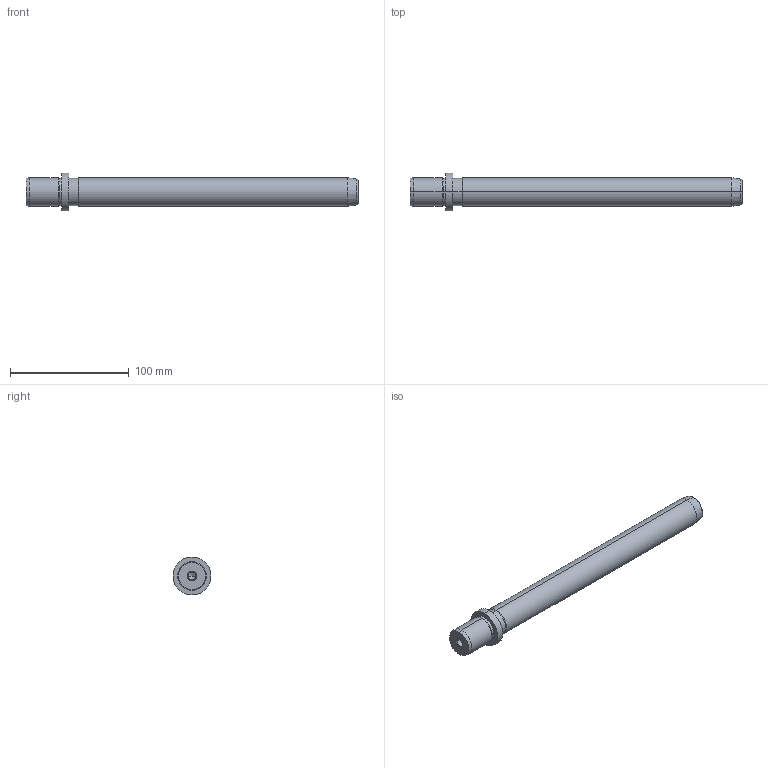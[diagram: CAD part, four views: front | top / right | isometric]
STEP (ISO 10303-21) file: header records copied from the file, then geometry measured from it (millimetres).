
FILE_DESCRIPTION(('CATIA V5 STEP Exchange'),'2;1');
FILE_NAME('C:\Users\Utente\Desktop\IO LAVORO\3D X SITO CF\X SITO\718\718-24x250.stp','2021-01-02T15:12:02+00:00',('none'),('none'),'CATIA Version 5 Release 20 GA (IN-10)','CATIA V5 STEP AP203','none');
FILE_SCHEMA(('CONFIG_CONTROL_DESIGN'));
Length unit declared in the file: millimetre
Products named in the file (1): 718-24x250
Bounding box: 280 x 32 x 32 mm (x, y, z)
Volume: 126237.9 mm3; surface area: 23768.2 mm2
Topology: 1 solids, 1 shells, 36 faces, 100 edges, 66 vertices
Faces by surface type: cone 16, cylinder 14, plane 4, torus 2
Entity records: 1291 total; most frequent: CARTESIAN_POINT 362, ORIENTED_EDGE 192, DIRECTION 157, EDGE_CURVE 96, AXIS2_PLACEMENT_3D 92, VERTEX_POINT 66, CIRCLE 55, EDGE_LOOP 40
